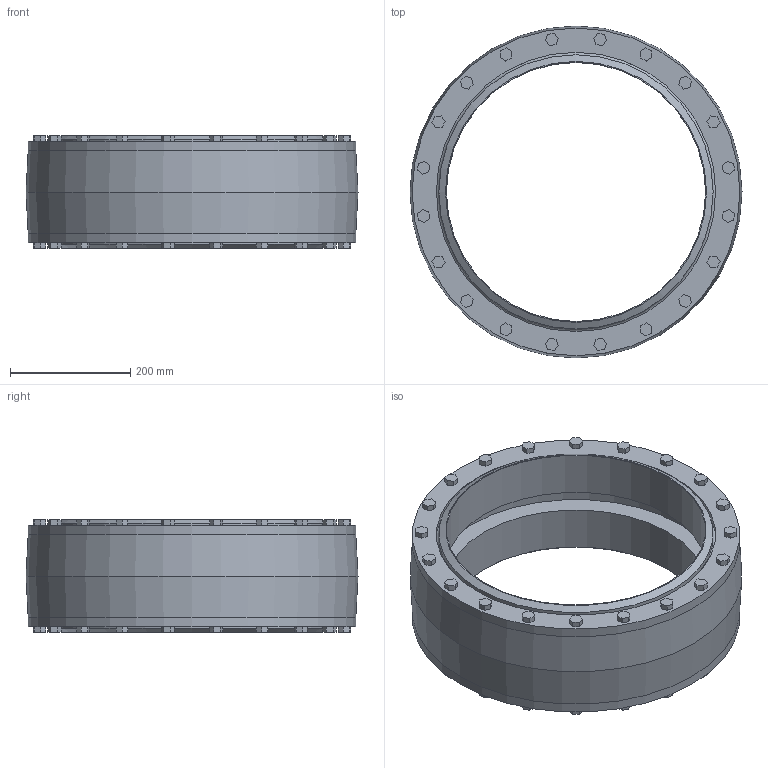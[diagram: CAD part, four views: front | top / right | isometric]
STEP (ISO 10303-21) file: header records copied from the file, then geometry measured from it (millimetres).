
FILE_DESCRIPTION(/* description */ ('VIC EXPANSION JOINT COUPLING 152-A','CAx-IF Rec.Pracs.---Representation and Presentation of Product Manufacturing Information (PMI)---4.0---2014-10-13'),/* implementation_level */ '2;1');
FILE_NAME(/* name */ 'C:\Users\kkamble\AppData\Roaming\Autodesk\ApplicationPlugins\Back Up\Victaulic_Vic-Ring_Coupling Expansion Joint_Style 152A (OGR)\Victaulic_Vic-Ring_Coupling Expansion Joint_Style 152A (OGR)_18 (450).stp',/* time_stamp */ '2020-09-10T11:33:58+05:00',/* author */ ('jheald'),/* organization */ ('Victaulic'),/* preprocessor_version */ 'ST-DEVELOPER v17.2',/* originating_system */ 'Autodesk Inventor 2019',/* authorisation */ '');
FILE_SCHEMA (('AP242_MANAGED_MODEL_BASED_3D_ENGINEERING_MIM_LF { 1 0 10303 442 1 1 4 }'));
Length unit declared in the file: inch
Products named in the file (1): 152A-18.0
Bounding box: 553.3 x 553.3 x 187.45 mm (x, y, z)
Volume: 13101010.2 mm3; surface area: 1335182.2 mm2
Topology: 1 solids, 1 shells, 317 faces, 819 edges, 556 vertices
Faces by surface type: plane 294, cylinder 15, cone 6, torus 2
Full cylindrical faces by diameter (mm): 431.8 x2, 457.2 x2, 465.328 x2, 471.678 x2, 492.252 x4, 495.3 x1, 546.1 x2
Entity records: 10040 total; most frequent: CARTESIAN_POINT 1710, ORIENTED_EDGE 1638, DIRECTION 1559, EDGE_CURVE 819, LINE 741, VECTOR 741, VERTEX_POINT 556, AXIS2_PLACEMENT_3D 409
